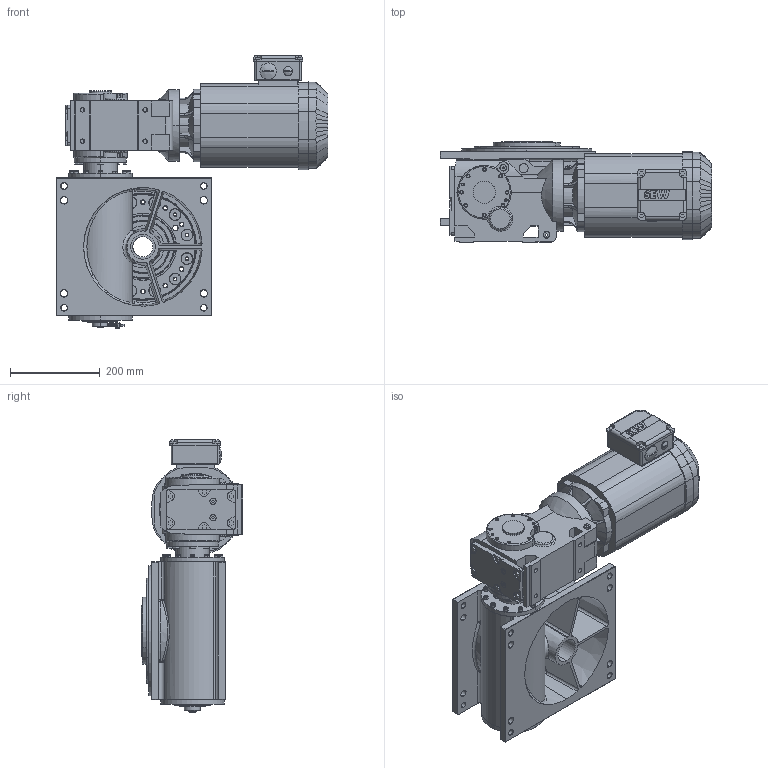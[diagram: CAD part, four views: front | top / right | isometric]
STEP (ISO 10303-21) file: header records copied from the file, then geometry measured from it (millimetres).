
FILE_DESCRIPTION (( 'STEP AP214' ), '1' );
FILE_NAME ('M235_SEW_KA47DRE100L4_D1_12.STEP', '2020-06-17T05:15:37', ( '' ), ( '' ), 'SwSTEP 2.0', 'SolidWorks 2020', '' );
FILE_SCHEMA (( 'AUTOMOTIVE_DESIGN' ));
Length unit declared in the file: millimetre
Products named in the file (1): M235_SEW_KA47DRE100L4_D1_12
Bounding box: 607.5 x 226 x 609.96 mm (x, y, z)
Surface area: 1294804.6 mm2 (no closed solid volume)
Topology: 0 solids, 96 shells, 1723 faces, 5265 edges, 3539 vertices
Faces by surface type: plane 661, cylinder 558, cone 284, bspline 130, torus 74, sphere 16
Entity records: 87860 total; most frequent: CARTESIAN_POINT 22764, DIRECTION 9715, ORIENTED_EDGE 8929, EDGE_CURVE 5220, AXIS2_PLACEMENT_3D 3568, VERTEX_POINT 3539, VECTOR 2579, LINE 2579
